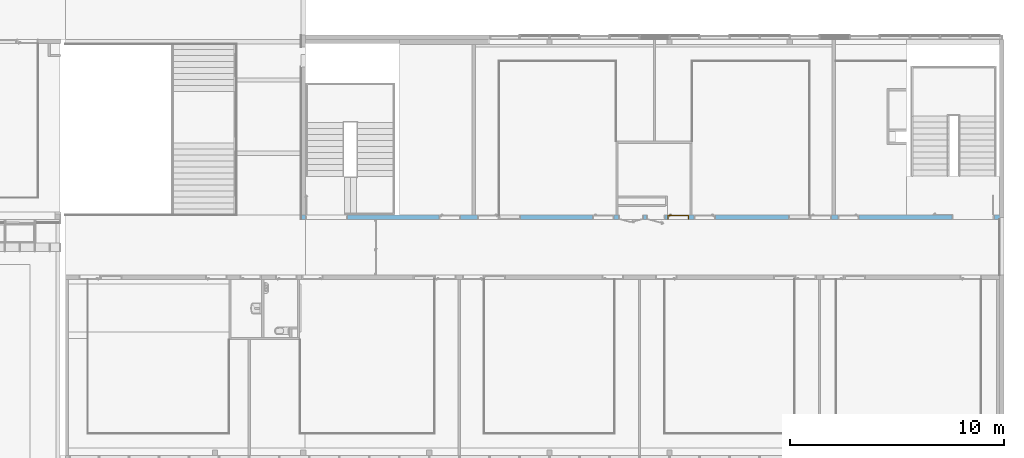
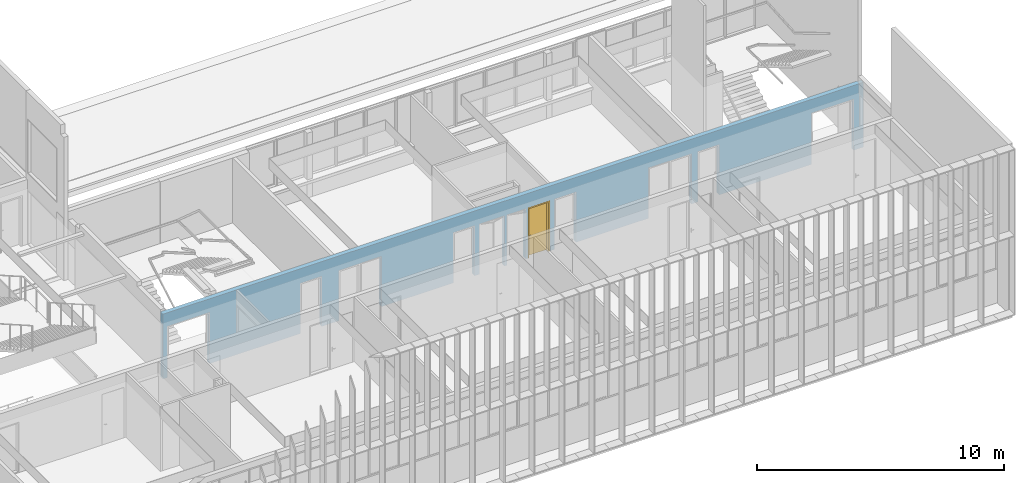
# One storey, part 83 of 106: 1 door, 13 openings, plus 1 element that does not belong to this part.
"""IFC2X3 building model written with IfcOpenShell, lengths in centimetres."""

from ifc_helpers import new_model, entity, si_unit, converted_unit, derived_unit, direction, frame, frame_2d, origin, place, context, subcontext, project, spatial, polyline, rectangle, extrude, clip, bounded_halfspace, faceted_brep, source, transform, mapped, material, material_list, layer, layer_set, layer_usage, type_object, type_shapes, element, fill, save


model = new_model("IFC2X3")

# Units and contexts
model_context = context("Model", 3, precision=0.001, world=origin(), true_north=direction((6.12303176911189e-17, 1.0)))
body_context = subcontext(model_context, "Body", "Model", "MODEL_VIEW")
ifc_project = project(units=[si_unit("LENGTHUNIT", "METRE", prefix="CENTI"), si_unit("AREAUNIT", "SQUARE_METRE"), si_unit("VOLUMEUNIT", "CUBIC_METRE"), converted_unit("PLANEANGLEUNIT", "DEGREE", entity("IfcRatioMeasure", 0.0174532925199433), si_unit("PLANEANGLEUNIT", "RADIAN"), dimensions=[0, 0, 0, 0, 0, 0, 0]), si_unit("MASSUNIT", "GRAM", prefix="KILO"), derived_unit("MASSDENSITYUNIT", [(si_unit("MASSUNIT", "GRAM", prefix="KILO"), 1), (si_unit("LENGTHUNIT", "METRE"), -3)]), si_unit("TIMEUNIT", "SECOND"), si_unit("FREQUENCYUNIT", "HERTZ"), si_unit("THERMODYNAMICTEMPERATUREUNIT", "DEGREE_CELSIUS"), derived_unit("THERMALTRANSMITTANCEUNIT", [(si_unit("MASSUNIT", "GRAM", prefix="KILO"), 1), (si_unit("THERMODYNAMICTEMPERATUREUNIT", "KELVIN"), -1), (si_unit("TIMEUNIT", "SECOND"), -3)]), derived_unit("VOLUMETRICFLOWRATEUNIT", [(si_unit("LENGTHUNIT", "METRE"), 3), (si_unit("TIMEUNIT", "SECOND"), -1)]), si_unit("ELECTRICCURRENTUNIT", "AMPERE"), si_unit("ELECTRICVOLTAGEUNIT", "VOLT"), si_unit("POWERUNIT", "WATT"), si_unit("FORCEUNIT", "NEWTON", prefix="KILO"), si_unit("ILLUMINANCEUNIT", "LUX"), si_unit("LUMINOUSFLUXUNIT", "LUMEN"), si_unit("LUMINOUSINTENSITYUNIT", "CANDELA"), derived_unit("USERDEFINED", [(si_unit("MASSUNIT", "GRAM", prefix="KILO"), -1), (si_unit("LENGTHUNIT", "METRE"), -2), (si_unit("TIMEUNIT", "SECOND"), 3), (si_unit("LUMINOUSFLUXUNIT", "LUMEN"), 1)]), derived_unit("LINEARVELOCITYUNIT", [(si_unit("LENGTHUNIT", "METRE"), 1), (si_unit("TIMEUNIT", "SECOND"), -1)]), si_unit("PRESSUREUNIT", "PASCAL"), derived_unit("USERDEFINED", [(si_unit("LENGTHUNIT", "METRE"), -2), (si_unit("MASSUNIT", "GRAM", prefix="KILO"), 1), (si_unit("TIMEUNIT", "SECOND"), -2)])], contexts=[model_context])

# Site, building, storey
site_placement = place(None, frame((-2781.94577612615, 7442.24238424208, 0.0)))
site = spatial("IfcSite", under=ifc_project, at=site_placement, Name="Default", CompositionType="ELEMENT")
building_placement = place(site_placement, origin())
building = spatial("IfcBuilding", under=site, at=building_placement, CompositionType="ELEMENT")
storey_placement = place(building_placement, frame((0.0, 0.0, 422.0)))
storey = spatial("IfcBuildingStorey", under=building, at=storey_placement, Name="Toiture - Cuisine", CompositionType="ELEMENT", Elevation=421.999999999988)

# Wall, openings, door
ifc_material_1 = material(Name="01 - Maçonnerie")
ifc_layer = layer(ifc_material_1, 20.0)
ifc_layer_set = layer_set([ifc_layer], Name="Mur de base:04 - Structure - béton - 20cm")
ifc_layer_usage = layer_usage(ifc_layer_set, "AXIS2", "NEGATIVE", 10.0)
wall_type = type_object("IfcWallType", Name="Mur de base:04 - Structure - béton - 20cm", PredefinedType="STANDARD", material=ifc_layer_set)
wall_placement = place(building_placement, frame((-3667.99987968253, -1920.07903364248, 422.0)))
wall = element("IfcWallStandardCase", 1, at=wall_placement, inside=storey, type_object=wall_type, material=ifc_layer_usage, Name="Mur de base:04 - Structure - béton - 20cm", ObjectType="Mur de base:04 - Structure - béton - 20cm", context=body_context, shape_type="Clipping", body=[
    clip(clip(extrude(rectangle(XDim=3277.99999684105, YDim=19.9999999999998, at=frame_2d((1638.99999842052, 6.21724893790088e-14), x_axis=(-1.0, 0.0))), origin(), (0.0, 0.0, 1.0), 321.0), bounded_halfspace(frame((0.0, -10.0, 321.0), z_axis=(0.0, 0.0, -1.0), x_axis=(0.0, 1.0, 0.0)), True, frame((0.0, -10.0, 321.0)), polyline([(0.0, 0.0), (20.0, 0.0), (20.0, 20.0), (0.0, 20.0), (0.0, 0.0)]))), bounded_halfspace(frame((458.699996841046, -10.0, 321.0), z_axis=(0.0, 0.0, -1.0), x_axis=(0.0, 1.0, 0.0)), True, frame((458.699996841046, -10.0, 321.0)), polyline([(0.0, 0.0), (2797.3, 0.0), (2799.29999999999, 0.0), (2799.29999999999, 10.0), (2799.29999999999, 20.0), (2034.0, 20.0), (2018.0, 20.0), (1914.0, 20.0), (1912.0, 20.0), (1363.8, 20.0), (1353.8, 20.0), (1249.8, 20.0), (1239.8, 20.0), (1149.8, 20.0), (1139.8, 20.0), (1019.8, 20.0), (1009.8, 20.0), (466.0, 20.0), (464.0, 20.0), (0.0, 20.0), (0.0, 0.0)]))),
])
opening_1_placement = place(wall_placement, frame((2502.69999684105, -10.0, 0.0)))
element("IfcOpeningElement", 2, at=opening_1_placement, cuts=wall, Name="Int. Simple:PP simple (0.93m x 2.50m):1", ObjectType="Opening", context=body_context, shape_type="SweptSolid", body=[
    extrude(rectangle(XDim=248.500000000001, YDim=99.9999999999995, at=frame_2d((124.250000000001, 49.9999999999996), x_axis=(1.0, 0.0))), frame((0.0, 0.0, 0.0), z_axis=(0.0, 1.0, 0.0), x_axis=(0.0, 0.0, 1.0)), (0.0, 0.0, 1.0), 20.0),
])
opening_2_placement = place(wall_placement, frame((2372.69999684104, -10.0, 0.0)))
element("IfcOpeningElement", 3, at=opening_2_placement, cuts=wall, Name="Int. Simple:PV (0.93m x 2.50m):1", ObjectType="Opening", context=body_context, shape_type="SweptSolid", body=[
    extrude(rectangle(XDim=248.500000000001, YDim=99.9999999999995, at=frame_2d((124.250000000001, 49.9999999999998), x_axis=(1.0, 0.0))), frame((0.0, 0.0, 0.0), z_axis=(0.0, 1.0, 0.0), x_axis=(0.0, 0.0, 1.0)), (0.0, 0.0, 1.0), 20.0),
])
opening_3_placement = place(wall_placement, frame((1832.49999684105, -10.0, 0.0)))
element("IfcOpeningElement", 4, at=opening_3_placement, cuts=wall, Name="Int. Simple:PV (0.93m x 2.50m):1", ObjectType="Opening", context=body_context, shape_type="SweptSolid", body=[
    extrude(rectangle(XDim=248.500000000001, YDim=99.9999999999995, at=frame_2d((124.250000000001, 49.9999999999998), x_axis=(1.0, 0.0))), frame((0.0, 0.0, 0.0), z_axis=(0.0, 1.0, 0.0), x_axis=(0.0, 0.0, 1.0)), (0.0, 0.0, 1.0), 20.0),
])
opening_4_placement = place(wall_placement, frame((1708.49999684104, -10.0, 0.0)))
opening_4 = element("IfcOpeningElement", 5, at=opening_4_placement, cuts=wall, Name="Int. Simple:PP simple (0.93m x 2.50m):1", ObjectType="Opening", context=body_context, shape_type="SweptSolid", body=[
    extrude(rectangle(XDim=248.500000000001, YDim=99.9999999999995, at=frame_2d((124.250000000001, 49.9999999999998), x_axis=(1.0, 0.0))), frame((0.0, 0.0, 0.0), z_axis=(0.0, 1.0, 0.0), x_axis=(0.0, 0.0, 1.0)), (0.0, 0.0, 1.0), 20.0),
])
opening_5_placement = place(wall_placement, frame((1358.49999684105, -10.0, 0.0)))
element("IfcOpeningElement", 6, at=opening_5_placement, cuts=wall, Name="Int. Simple:PV (0.93m x 2.50m):1", ObjectType="Opening", context=body_context, shape_type="SweptSolid", body=[
    extrude(rectangle(XDim=248.500000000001, YDim=99.9999999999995, at=frame_2d((124.250000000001, 49.9999999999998), x_axis=(1.0, 0.0))), frame((0.0, 0.0, 0.0), z_axis=(0.0, 1.0, 0.0), x_axis=(0.0, 0.0, 1.0)), (0.0, 0.0, 1.0), 20.0),
])
opening_6_placement = place(wall_placement, frame((822.699996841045, -10.0, 0.0)))
element("IfcOpeningElement", 7, at=opening_6_placement, cuts=wall, Name="Int. Simple:PV (0.93m x 2.50m):1", ObjectType="Opening", context=body_context, shape_type="SweptSolid", body=[
    extrude(rectangle(XDim=248.500000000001, YDim=99.9999999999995, at=frame_2d((124.250000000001, 49.9999999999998), x_axis=(1.0, 0.0))), frame((0.0, 0.0, 0.0), z_axis=(0.0, 1.0, 0.0), x_axis=(0.0, 0.0, 1.0)), (0.0, 0.0, 1.0), 20.0),
])
opening_7_placement = place(wall_placement, frame((642.699996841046, -10.0, 0.0)))
element("IfcOpeningElement", 8, at=opening_7_placement, cuts=wall, Name="Int. Simple:PP simple (0.93m x 2.50m):1", ObjectType="Opening", context=body_context, shape_type="SweptSolid", body=[
    extrude(rectangle(XDim=248.500000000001, YDim=99.9999999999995, at=frame_2d((124.250000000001, 49.9999999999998), x_axis=(1.0, 0.0))), frame((0.0, 0.0, 0.0), z_axis=(0.0, 1.0, 0.0), x_axis=(0.0, 0.0, 1.0)), (0.0, 0.0, 1.0), 20.0),
])
opening_8_placement = place(wall_placement, frame((2272.69999684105, -10.0, 0.0)))
element("IfcOpeningElement", 9, at=opening_8_placement, cuts=wall, Name="châssis intérieur vitré:châssis intérieur vitré (h=270) R+1:1", ObjectType="Opening", context=body_context, shape_type="SweptSolid", body=[
    extrude(rectangle(XDim=250.0, YDim=99.9999999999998, at=frame_2d((125.0, 49.9999999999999), x_axis=(1.0, 0.0))), frame((0.0, 0.0, 0.0), z_axis=(0.0, 1.0, 0.0), x_axis=(0.0, 0.0, 1.0)), (0.0, 0.0, 1.0), 20.0),
])
opening_9_placement = place(wall_placement, frame((922.699996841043, -10.0, 0.0)))
element("IfcOpeningElement", 10, at=opening_9_placement, cuts=wall, Name="châssis intérieur vitré:châssis intérieur vitré (h=270) R+1:1", ObjectType="Opening", context=body_context, shape_type="SweptSolid", body=[
    extrude(rectangle(XDim=250.0, YDim=99.9999999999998, at=frame_2d((125.0, 49.9999999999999), x_axis=(1.0, 0.0))), frame((0.0, 0.0, 0.0), z_axis=(0.0, 1.0, 0.0), x_axis=(0.0, 0.0, 1.0)), (0.0, 0.0, 1.0), 20.0),
])
opening_10_placement = place(wall_placement, frame((1697.0, 10.0, 0.0)))
element("IfcOpeningElement", 11, at=opening_10_placement, cuts=wall, Name="Int. Simple:PP Placard (0.80m x 2.50m):1", ObjectType="Opening", context=body_context, shape_type="SweptSolid", body=[
    extrude(rectangle(XDim=248.500000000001, YDim=86.9999999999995, at=frame_2d((124.250000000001, 43.4999999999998), x_axis=(1.0, 0.0))), frame((0.0, 0.0, 0.0), z_axis=(0.0, -1.0, 0.0), x_axis=(0.0, 0.0, 1.0)), (0.0, 0.0, 1.0), 20.0),
])
opening_11_placement = place(wall_placement, frame((1597.0, 10.0, 0.0)))
element("IfcOpeningElement", 12, at=opening_11_placement, cuts=wall, Name="Int. Double:PP Placard (1.10m x 2.50m):1", ObjectType="Opening", context=body_context, shape_type="SweptSolid", body=[
    extrude(rectangle(XDim=248.500000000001, YDim=117.0, at=frame_2d((124.250000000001, 58.5000000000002), x_axis=(1.0, 0.0))), frame((0.0, 0.0, 0.0), z_axis=(0.0, -1.0, 0.0), x_axis=(0.0, 0.0, 1.0)), (0.0, 0.0, 1.0), 20.0),
])
opening_12_placement = place(wall_placement, frame((3035.69999684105, -10.0, 0.0)))
element("IfcOpeningElement", 13, at=opening_12_placement, cuts=wall, Name="Int. Double:PP (1.90m x 2.50m):1", ObjectType="Opening", context=body_context, shape_type="SweptSolid", body=[
    extrude(rectangle(XDim=253.500000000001, YDim=197.0, at=frame_2d((126.750000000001, 98.5000000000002), x_axis=(1.0, 0.0))), frame((0.0, 0.0, 0.0), z_axis=(0.0, 1.0, 0.0), x_axis=(0.0, 0.0, 1.0)), (0.0, 0.0, 1.0), 20.0),
])
opening_13_placement = place(wall_placement, frame((20.0, -10.0, 0.0)))
element("IfcOpeningElement", 14, at=opening_13_placement, cuts=wall, Name="Int. Double:PP (1.90m x 2.50m):1", ObjectType="Opening", context=body_context, shape_type="SweptSolid", body=[
    extrude(rectangle(XDim=253.500000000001, YDim=197.0, at=frame_2d((126.750000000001, 98.5), x_axis=(1.0, 0.0))), frame((0.0, 0.0, 0.0), z_axis=(0.0, 1.0, 0.0), x_axis=(0.0, 0.0, 1.0)), (0.0, 0.0, 1.0), 20.0),
])
ifc_material_2 = material(Name="Finition Peinture - Blanc satiné")
ifc_material_3 = material(Name="Bois - Panneau de porte")
ifc_material_4 = material(Name="Bois - Cadre de porte")
ifc_material_list_1 = material_list([ifc_material_2, ifc_material_3, ifc_material_4])
ifc_material_list_2 = material_list([ifc_material_2, ifc_material_3, ifc_material_4])
door_style = type_object("IfcDoorStyle", Name="PP simple (0.93m x 2.50m)", ConstructionType="NOTDEFINED", OperationType="SINGLE_SWING_RIGHT", ParameterTakesPrecedence=False, Sizeable=False, material=ifc_material_list_2)
shared_shape = source(origin(), body_context, "Body", "Brep", [
    faceted_brep([(99.5000000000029, -0.500000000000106, 87.0), (99.5000000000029, -0.500000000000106, 108.0), (98.535276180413, -0.500000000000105, 108.399601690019), (97.5000000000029, -0.500000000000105, 108.535898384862), (96.4647238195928, -0.500000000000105, 108.399601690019), (95.500000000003, -0.500000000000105, 108.0), (95.5000000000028, -0.500000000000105, 87.0), (96.4647238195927, -0.500000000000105, 86.6003983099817), (97.5000000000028, -0.500000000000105, 86.464101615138), (98.5352761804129, -0.500000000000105, 86.6003983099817), (99.5000000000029, 0.0, 108.0), (99.5000000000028, 0.0, 87.0), (98.5352761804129, 0.0, 86.6003983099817), (97.5000000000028, 0.0, 86.464101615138), (96.4647238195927, 0.0, 86.6003983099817), (95.5000000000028, 0.0, 87.0), (95.5000000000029, 0.0, 108.0), (96.4647238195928, 0.0, 108.399601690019), (97.5000000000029, 0.0, 108.535898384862), (98.535276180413, 0.0, 108.399601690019)], [[[0, 1, 2, 3, 4, 5, 6, 7, 8, 9]], [[10, 11, 12, 13, 14, 15, 16, 17, 18, 19]], [[9, 12, 11, 0]], [[8, 13, 12, 9]], [[7, 14, 13, 8]], [[7, 6, 15, 14]], [[15, 6, 5, 16]], [[4, 17, 16, 5]], [[3, 18, 17, 4]], [[2, 19, 18, 3]], [[2, 1, 10, 19]], [[11, 10, 1, 0]]]),
    faceted_brep([(99.5000000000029, 4.0, 87.0), (99.5000000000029, 4.0, 108.0), (98.535276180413, 4.0, 108.399601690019), (97.5000000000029, 4.0, 108.535898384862), (96.4647238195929, 4.0, 108.399601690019), (95.500000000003, 4.0, 108.0), (95.5000000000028, 4.0, 87.0), (96.4647238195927, 4.0, 86.6003983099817), (97.5000000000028, 4.0, 86.464101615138), (98.5352761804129, 4.0, 86.6003983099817), (97.5000000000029, 4.49999999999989, 108.535898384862), (98.535276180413, 4.49999999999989, 108.399601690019), (99.5000000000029, 4.49999999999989, 108.0), (99.5000000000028, 4.49999999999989, 87.0), (98.5352761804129, 4.49999999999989, 86.6003983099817), (97.5000000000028, 4.49999999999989, 86.464101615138), (96.4647238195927, 4.49999999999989, 86.6003983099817), (95.5000000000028, 4.49999999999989, 87.0), (95.500000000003, 4.49999999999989, 108.0), (96.4647238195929, 4.49999999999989, 108.399601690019)], [[[0, 1, 2, 3, 4, 5, 6, 7, 8, 9]], [[10, 11, 12, 13, 14, 15, 16, 17, 18, 19]], [[4, 19, 18, 5]], [[3, 10, 19, 4]], [[2, 11, 10, 3]], [[2, 1, 12, 11]], [[13, 12, 1, 0]], [[9, 14, 13, 0]], [[8, 15, 14, 9]], [[7, 16, 15, 8]], [[7, 6, 17, 16]], [[17, 6, 5, 18]]]),
    faceted_brep([(97.2974701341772, -0.500000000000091, 100.778044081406), (97.7025298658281, -0.500000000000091, 100.778044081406), (98.1000000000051, -0.500000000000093, 100.699999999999), (98.100000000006, -0.500000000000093, 99.2999999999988), (97.7025298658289, -0.500000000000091, 99.221955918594), (97.297470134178, -0.500000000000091, 99.2219559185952), (96.9000000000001, -0.500000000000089, 99.3000000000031), (96.9000000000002, -0.500000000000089, 100.7), (97.7025298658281, -3.10045754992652, 100.778044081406), (98.1000000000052, -3.26509507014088, 100.7), (97.2974701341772, -2.93267631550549, 100.778044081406), (95.9298602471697, -4.30028620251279, 100.778044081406), (96.0976414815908, -4.70534593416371, 100.778044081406), (96.9000000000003, -2.76803879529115, 100.7), (96.9000000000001, -2.76803879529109, 99.3000000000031), (97.297470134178, -2.93267631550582, 99.2219559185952), (97.7025298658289, -3.10045754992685, 99.221955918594), (96.0976414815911, -4.70534593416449, 99.221955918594), (95.9298602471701, -4.30028620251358, 99.2219559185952), (98.100000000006, -3.26509507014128, 99.2999999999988), (96.2622790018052, -5.1028160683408, 100.7), (95.7652227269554, -3.90281606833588, 100.7), (95.7652227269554, -3.90281606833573, 99.3000000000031), (96.2622790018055, -5.10281606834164, 99.2999999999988), (87.4981359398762, -5.10281606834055, 100.7), (87.4981359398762, -4.70534593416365, 100.778044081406), (87.4981359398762, -4.30028620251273, 100.778044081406), (87.4981359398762, -3.90281606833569, 100.699999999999), (87.4981359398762, -3.90281606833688, 99.3000000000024), (87.4981359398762, -4.30028620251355, 99.2219559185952), (87.4981359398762, -4.70534593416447, 99.221955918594), (87.4981359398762, -5.10281606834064, 99.2999999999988), (91.7139980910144, -4.5028160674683, 100.78786867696), (92.2692302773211, -5.1028160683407, 100.7), (91.6316793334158, -3.9028160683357, 100.7), (91.631679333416, -3.90281606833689, 99.3000000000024), (91.7139981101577, -4.50281607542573, 99.2121313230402), (92.2692310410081, -5.10281606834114, 99.2999999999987)], [[[0, 1, 2, 3, 4, 5, 6, 7]], [[2, 1, 8, 9]], [[1, 0, 10, 11, 12, 8]], [[0, 7, 13, 10]], [[14, 13, 7, 6]], [[5, 15, 14, 6]], [[5, 4, 16, 17, 18, 15]], [[3, 19, 16, 4]], [[9, 19, 3, 2]], [[9, 8, 12, 20]], [[10, 13, 21, 11]], [[22, 21, 13, 14]], [[14, 15, 18, 22]], [[16, 19, 23, 17]], [[20, 23, 19, 9]], [[24, 25, 26, 27, 28, 29, 30, 31]], [[32, 25, 33]], [[33, 25, 24]], [[33, 20, 12]], [[11, 34, 32]], [[34, 11, 21]], [[27, 26, 34]], [[32, 26, 25]], [[32, 34, 26]], [[32, 33, 12]], [[11, 32, 12]], [[21, 22, 35, 28, 27, 34]], [[36, 29, 35]], [[30, 36, 37]], [[18, 35, 22]], [[29, 28, 35]], [[30, 37, 31]], [[37, 17, 23]], [[36, 17, 37]], [[36, 18, 17]], [[36, 35, 18]], [[29, 36, 30]], [[23, 20, 33, 24, 31, 37]]]),
    faceted_brep([(97.2974701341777, 4.49999999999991, 99.2219559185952), (97.7025298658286, 4.49999999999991, 99.221955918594), (98.1000000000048, 4.4999999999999, 99.2999999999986), (98.1000000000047, 4.4999999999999, 100.7), (97.7025298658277, 4.49999999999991, 100.778044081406), (97.2974701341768, 4.49999999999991, 100.778044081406), (96.8999999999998, 4.49999999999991, 100.7), (96.900000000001, 4.49999999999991, 99.3000000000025), (96.8999999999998, 6.7485204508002, 100.7), (96.8999999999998, 6.74852045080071, 99.3000000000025), (97.2974701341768, 6.91315797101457, 100.778044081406), (97.7025298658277, 7.0809392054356, 100.778044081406), (96.0838906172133, 8.69957845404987, 100.778044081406), (95.9161093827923, 8.29451872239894, 100.778044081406), (98.1000000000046, 7.24557672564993, 100.7), (98.1000000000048, 7.24557672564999, 99.2999999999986), (97.7025298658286, 7.08093920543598, 99.221955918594), (97.2974701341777, 6.91315797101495, 99.2219559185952), (95.9161093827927, 8.29451872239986, 99.2219559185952), (96.0838906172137, 8.69957845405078, 99.221955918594), (95.751471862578, 7.89704858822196, 100.7), (95.7514718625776, 7.89704858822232, 99.3000000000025), (96.2485281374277, 9.09704858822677, 100.7), (96.2485281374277, 9.09704858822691, 99.2999999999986), (87.4954216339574, 8.29451872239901, 100.778044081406), (87.4954216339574, 8.69957845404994, 100.778044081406), (87.4954216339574, 9.09704858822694, 100.7), (87.4954216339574, 9.09704858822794, 99.2999999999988), (87.4954216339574, 8.6995784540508, 99.221955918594), (87.4954216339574, 8.29451872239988, 99.2219559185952), (87.4954216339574, 7.89704858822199, 99.3000000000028), (87.4954216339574, 7.89704858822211, 100.7), (91.6234467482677, 7.89704858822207, 100.7), (91.6234479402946, 7.89704858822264, 99.3000000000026), (91.7057655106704, 8.49704858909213, 100.78786867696), (92.255479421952, 9.09704858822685, 100.7), (92.2554795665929, 9.09704858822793, 99.2999999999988), (91.7057654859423, 8.49704858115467, 99.2121313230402)], [[[0, 1, 2, 3, 4, 5, 6, 7]], [[8, 9, 7, 6]], [[5, 10, 8, 6]], [[5, 4, 11, 12, 13, 10]], [[3, 14, 11, 4]], [[14, 3, 2, 15]], [[2, 1, 16, 15]], [[1, 0, 17, 18, 19, 16]], [[0, 7, 9, 17]], [[20, 21, 9, 8]], [[8, 10, 13, 20]], [[14, 22, 12, 11]], [[23, 22, 14, 15]], [[15, 16, 19, 23]], [[17, 9, 21, 18]], [[24, 25, 26, 27, 28, 29, 30, 31]], [[21, 20, 32, 31, 30, 33]], [[34, 24, 32]], [[25, 34, 35]], [[13, 32, 20]], [[24, 31, 32]], [[25, 35, 26]], [[35, 12, 22]], [[34, 12, 35]], [[34, 13, 12]], [[34, 32, 13]], [[24, 34, 25]], [[22, 23, 36, 27, 26, 35]], [[37, 28, 36]], [[36, 28, 27]], [[36, 23, 19]], [[18, 33, 37]], [[33, 18, 21]], [[30, 29, 33]], [[37, 29, 28]], [[37, 33, 29]], [[37, 36, 19]], [[18, 37, 19]]]),
    faceted_brep([(103.500000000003, 4.0, 245.0), (103.500000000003, 4.0, 0.0), (10.5000000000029, 4.0, 0.0), (10.5000000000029, 4.0, 245.0), (103.500000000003, 0.0, 245.0), (10.5000000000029, 0.0, 245.0), (10.5000000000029, 0.0, 0.0), (103.500000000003, 0.0, 0.0)], [[[0, 1, 2, 3]], [[4, 5, 6, 7]], [[3, 5, 4, 0]], [[2, 6, 5, 3]], [[1, 7, 6, 2]], [[0, 4, 7, 1]]]),
    faceted_brep([(107.0, 20.0, 0.0), (107.0, 0.0, 0.0), (108.500000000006, 0.0, 0.0), (108.500000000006, -0.500000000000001, 0.0), (103.500000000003, -0.500000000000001, 0.0), (103.500000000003, 4.0, 0.0), (102.0, 4.0, 0.0), (102.0, 20.5000000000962, 0.0), (108.500000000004, 20.5000000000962, 0.0), (108.500000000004, 20.0, 0.0), (107.0, 20.0, 248.500000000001), (107.0, 0.0, 248.500000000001), (108.500000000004, 20.0, 250.0), (5.50000000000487, 20.0, 250.0), (5.50000000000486, 20.0, 0.0), (7.0, 20.0, 0.0), (7.0, 20.0, 248.500000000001), (102.0, 4.0, 243.5), (102.0, 20.5000000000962, 243.5), (103.500000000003, 4.0, 245.0), (10.5000000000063, 4.0, 245.0), (10.5000000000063, 4.0, 0.0), (12.0, 4.0, 0.0), (12.0, 4.0, 243.5), (7.0, 0.0, 0.0), (7.0, 0.0, 248.500000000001), (5.50000000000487, 20.5000000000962, 0.0), (12.0, 20.5000000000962, 0.0), (10.5000000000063, -0.500000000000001, 0.0), (5.5000000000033, -0.500000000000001, 0.0), (5.5000000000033, 0.0, 0.0), (12.0, 20.5000000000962, 243.5), (103.500000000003, -0.500000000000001, 245.0), (108.500000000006, -0.500000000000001, 250.0), (5.5000000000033, -0.500000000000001, 250.0), (10.5000000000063, -0.500000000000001, 245.0), (108.500000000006, 0.0, 250.0), (5.50000000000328, 0.0, 250.0), (108.500000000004, 20.5000000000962, 250.0), (5.50000000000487, 20.5000000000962, 250.0)], [[[0, 1, 2, 3, 4, 5, 6, 7, 8, 9]], [[0, 10, 11, 1]], [[9, 12, 13, 14, 15, 16, 10, 0]], [[7, 6, 17, 18]], [[5, 19, 20, 21, 22, 23, 17, 6]], [[16, 15, 24, 25]], [[15, 14, 26, 27, 22, 21, 28, 29, 30, 24]], [[23, 22, 27, 31]], [[10, 16, 25, 11]], [[17, 23, 31, 18]], [[5, 4, 32, 19]], [[3, 33, 34, 29, 28, 35, 32, 4]], [[2, 36, 33, 3]], [[1, 11, 25, 24, 30, 37, 36, 2]], [[8, 38, 12, 9]], [[7, 18, 31, 27, 26, 39, 38, 8]], [[35, 28, 21, 20]], [[37, 30, 29, 34]], [[39, 26, 14, 13]], [[32, 35, 20, 19]], [[36, 37, 34, 33]], [[38, 39, 13, 12]]]),
])
type_shapes(door_style, [shared_shape])
door_placement = place(opening_4_placement, frame((107.0, 20.0, 0.0), z_axis=(0.0, 0.0, 1.0), x_axis=(-1.0, 0.0, 0.0)))
door = element("IfcDoor", 15, at=door_placement, inside=storey, type_object=door_style, material=ifc_material_list_1, Name="Int. Simple:PP simple (0.93m x 2.50m)", ObjectType="Int. Simple:PP simple (0.93m x 2.50m)", OverallHeight=248.500000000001, OverallWidth=99.9999999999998, context=body_context, shape_type="MappedRepresentation", body=[
    mapped(shared_shape, transform((0.0, 0.0, 0.0), scale=1.0)),
])
fill(opening_4, door)

save(model, "model.ifc")
